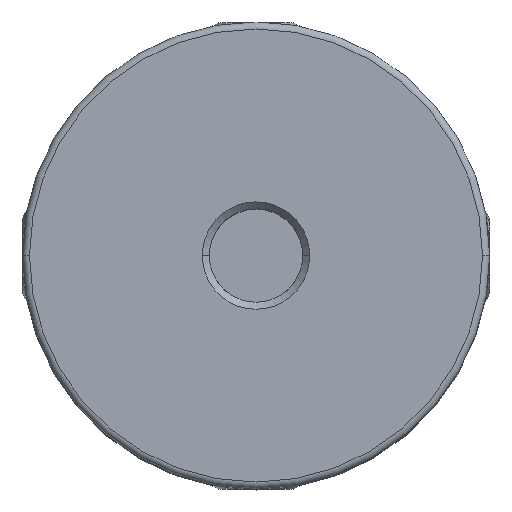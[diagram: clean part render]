
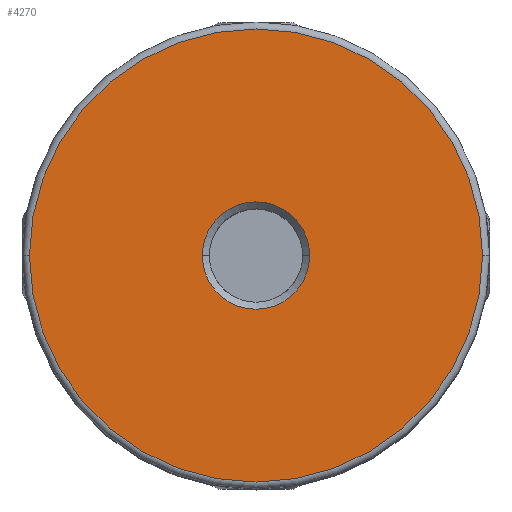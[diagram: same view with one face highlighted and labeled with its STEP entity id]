
A CAD part, top view. The second image highlights one B-rep face of the part: STEP entity #4270.
In plain terms, the highlighted planar face has unit normal (0, 0, 1).
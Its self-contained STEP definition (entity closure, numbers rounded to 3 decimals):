
#109 = PLANE ( 'NONE',  #2324 ) ;
#110 = CARTESIAN_POINT ( 'NONE',  ( 0., 0., 9.95 ) ) ;
#111 = DIRECTION ( 'NONE',  ( 0., 0., -1. ) ) ;
#112 = DIRECTION ( 'NONE',  ( -1., 0., 0. ) ) ;
#472 = CARTESIAN_POINT ( 'NONE',  ( 0., 0., 9.95 ) ) ;
#474 = DIRECTION ( 'NONE',  ( 0., 0., 1. ) ) ;
#475 = DIRECTION ( 'NONE',  ( -1., 0., 0. ) ) ;
#801 = CARTESIAN_POINT ( 'NONE',  ( -9.7, 0., 9.95 ) ) ;
#808 = CARTESIAN_POINT ( 'NONE',  ( 9.7, 0., 9.95 ) ) ;
#992 = CARTESIAN_POINT ( 'NONE',  ( -2.3, 0., 9.95 ) ) ;
#996 = CARTESIAN_POINT ( 'NONE',  ( 2.3, 0., 9.95 ) ) ;
#1090 = CARTESIAN_POINT ( 'NONE',  ( 0., 0., 9.95 ) ) ;
#1091 = DIRECTION ( 'NONE',  ( 0., 0., -1. ) ) ;
#1092 = DIRECTION ( 'NONE',  ( 0., 1., 0. ) ) ;
#1973 = CARTESIAN_POINT ( 'NONE',  ( 0., 0., 9.95 ) ) ;
#1974 = DIRECTION ( 'NONE',  ( 0., 0., -1. ) ) ;
#1975 = DIRECTION ( 'NONE',  ( 0., 1., 0. ) ) ;
#2047 = AXIS2_PLACEMENT_3D ( 'NONE', #4846, #4855, #4857 ) ;
#2317 = FACE_BOUND ( 'NONE', #4763, .T. ) ;
#2322 = FACE_OUTER_BOUND ( 'NONE', #4732, .T. ) ;
#2324 = AXIS2_PLACEMENT_3D ( 'NONE', #110, #111, #112 ) ;
#2492 = AXIS2_PLACEMENT_3D ( 'NONE', #472, #474, #475 ) ;
#2593 = AXIS2_PLACEMENT_3D ( 'NONE', #1090, #1091, #1092 ) ;
#3308 = ORIENTED_EDGE ( 'NONE', *, *, #4044, .T. ) ;
#3310 = ORIENTED_EDGE ( 'NONE', *, *, #4367, .T. ) ;
#3311 = ORIENTED_EDGE ( 'NONE', *, *, #4807, .T. ) ;
#3312 = ORIENTED_EDGE ( 'NONE', *, *, #5430, .T. ) ;
#3833 = AXIS2_PLACEMENT_3D ( 'NONE', #1973, #1974, #1975 ) ;
#3877 = CIRCLE ( 'NONE', #3833, 2.3 ) ;
#3934 = CIRCLE ( 'NONE', #2593, 2.3 ) ;
#3961 = CIRCLE ( 'NONE', #2492, 9.7 ) ;
#4034 = CIRCLE ( 'NONE', #2047, 9.7 ) ;
#4044 = EDGE_CURVE ( 'NONE', #4593, #4591, #4034, .T. ) ;
#4270 = ADVANCED_FACE ( 'NONE', ( #2317, #2322 ), #109, .F. ) ;
#4367 = EDGE_CURVE ( 'NONE', #4591, #4593, #3961, .T. ) ;
#4591 = VERTEX_POINT ( 'NONE', #801 ) ;
#4593 = VERTEX_POINT ( 'NONE', #808 ) ;
#4705 = VERTEX_POINT ( 'NONE', #992 ) ;
#4707 = VERTEX_POINT ( 'NONE', #996 ) ;
#4732 = EDGE_LOOP ( 'NONE', ( #3310, #3308 ) ) ;
#4763 = EDGE_LOOP ( 'NONE', ( #3312, #3311 ) ) ;
#4807 = EDGE_CURVE ( 'NONE', #4705, #4707, #3934, .T. ) ;
#4846 = CARTESIAN_POINT ( 'NONE',  ( 0., 0., 9.95 ) ) ;
#4855 = DIRECTION ( 'NONE',  ( 0., 0., 1. ) ) ;
#4857 = DIRECTION ( 'NONE',  ( -1., 0., 0. ) ) ;
#5430 = EDGE_CURVE ( 'NONE', #4707, #4705, #3877, .T. ) ;
